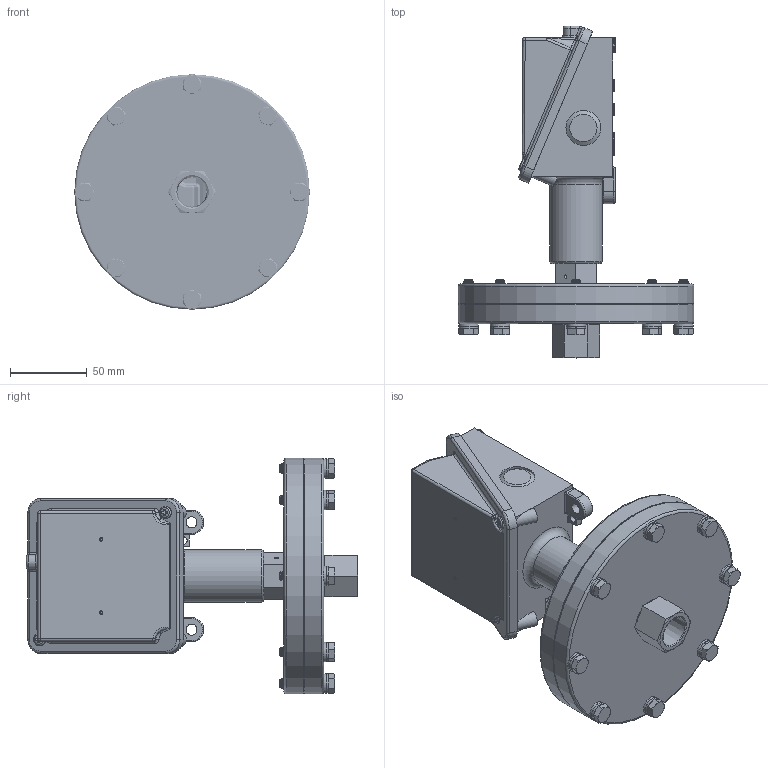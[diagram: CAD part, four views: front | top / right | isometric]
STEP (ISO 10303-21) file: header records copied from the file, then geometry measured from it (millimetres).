
FILE_DESCRIPTION (( 'STEP AP214' ), '1' );
FILE_NAME ('H100-520_525_V1.STEP', '2025-02-28T13:36:53', ( '' ), ( '' ), 'SwSTEP 2.0', 'SolidWorks 2023', '' );
FILE_SCHEMA (( 'AUTOMOTIVE_DESIGN' ));
Length unit declared in the file: inch
Products named in the file (1): H100-520_525_V1
Bounding box: 153.16 x 215.86 x 153.16 mm (x, y, z)
Surface area: 127997.5 mm2 (no closed solid volume)
Topology: 0 solids, 43 shells, 455 faces, 1164 edges, 756 vertices
Faces by surface type: plane 187, cylinder 112, cone 69, torus 44, bspline 33, sphere 10
Full cylindrical faces by diameter (mm): 1.321 x2, 1.575 x1, 3.797 x1, 4.763 x1, 7.112 x2, 7.937 x2, 7.938 x2, 8.179 x2, 9.525 x2, 12.7 x8, 22.733 x2, 26.924 x1, 34.131 x1, 152.4 x1, 153.162 x2
Entity records: 40719 total; most frequent: CARTESIAN_POINT 30560, DIRECTION 2108, ORIENTED_EDGE 1853, EDGE_CURVE 1074, AXIS2_PLACEMENT_3D 857, VERTEX_POINT 734, EDGE_LOOP 596, FACE_OUTER_BOUND 503
